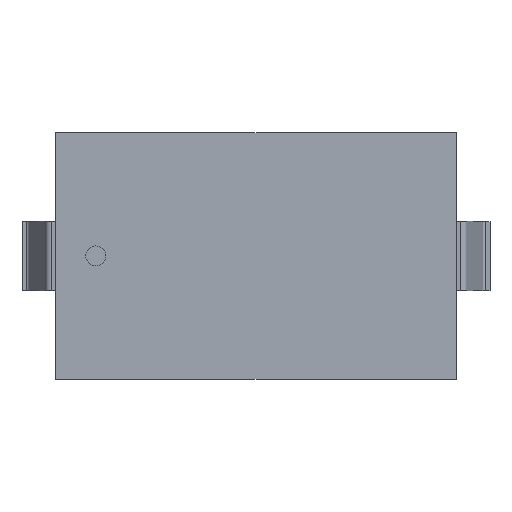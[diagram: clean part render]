
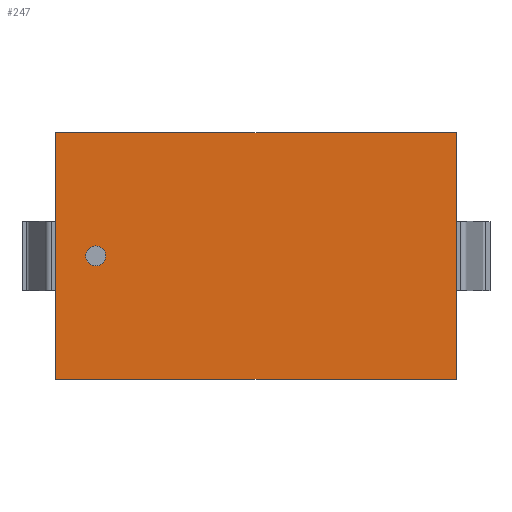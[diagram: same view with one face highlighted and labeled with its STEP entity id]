
A CAD part, top view. The second image highlights one B-rep face of the part: STEP entity #247.
In plain terms, the highlighted planar face has unit normal (0, 0, 1).
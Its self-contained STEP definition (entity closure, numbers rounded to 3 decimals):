
#247=ADVANCED_FACE('',(#253),#248,.T.);
#248=PLANE('',#249);
#249=AXIS2_PLACEMENT_3D('',#250,#251,#252);
#250=CARTESIAN_POINT('',(-10.147,-6.248,4.801));
#251=DIRECTION('',(0.0,0.0,1.0));
#252=DIRECTION('',(0.,1.,0.));
#253=FACE_OUTER_BOUND('',#254,.T.);
#254=EDGE_LOOP('',(#255,#265,#275,#285));
#258=CARTESIAN_POINT('',(10.147,-6.248,4.801));
#257=VERTEX_POINT('',#258);
#260=CARTESIAN_POINT('',(-10.147,-6.248,4.801));
#259=VERTEX_POINT('',#260);
#256=EDGE_CURVE('',#257,#259,#261,.T.);
#261=LINE('',#258,#263);
#263=VECTOR('',#264,20.295);
#264=DIRECTION('',(-1.0,0.0,0.0));
#255=ORIENTED_EDGE('',*,*,#256,.F.);
#268=CARTESIAN_POINT('',(10.147,6.248,4.801));
#267=VERTEX_POINT('',#268);
#266=EDGE_CURVE('',#267,#257,#271,.T.);
#271=LINE('',#268,#273);
#273=VECTOR('',#274,12.497);
#274=DIRECTION('',(0.0,-1.0,0.0));
#265=ORIENTED_EDGE('',*,*,#266,.F.);
#278=CARTESIAN_POINT('',(-10.147,6.248,4.801));
#277=VERTEX_POINT('',#278);
#276=EDGE_CURVE('',#277,#267,#281,.T.);
#281=LINE('',#278,#283);
#283=VECTOR('',#284,20.295);
#284=DIRECTION('',(1.0,0.0,0.0));
#275=ORIENTED_EDGE('',*,*,#276,.F.);
#286=EDGE_CURVE('',#259,#277,#291,.T.);
#291=LINE('',#260,#293);
#293=VECTOR('',#294,12.497);
#294=DIRECTION('',(0.0,1.0,0.0));
#285=ORIENTED_EDGE('',*,*,#286,.F.);
